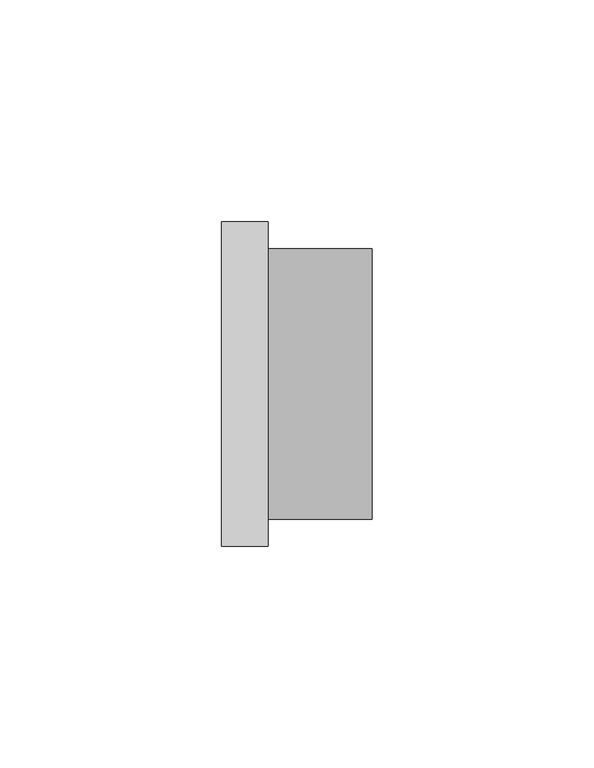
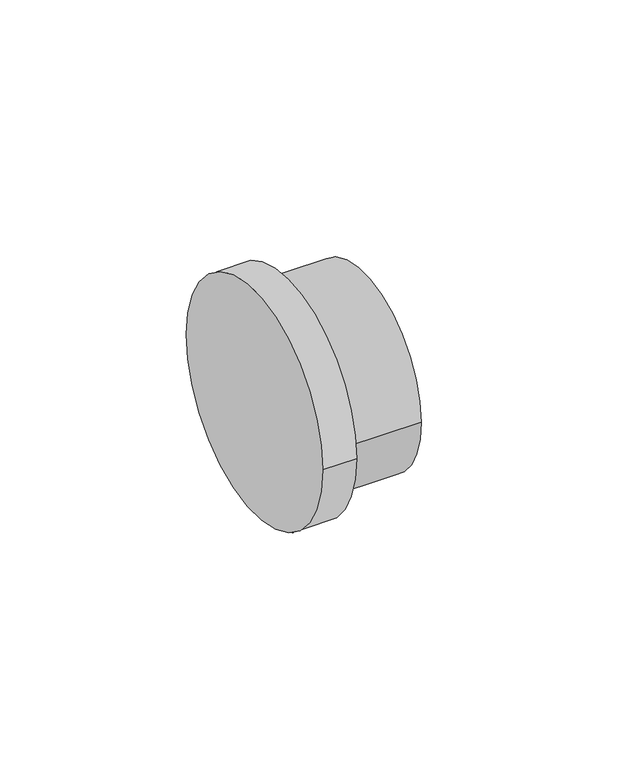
"""IFC4 building model written with IfcOpenShell, lengths in millimetres: pipe fitting geometry, NIRON RED termofusion casquillo : Estándar."""

from ifc_helpers import new_model, si_unit, point, frame, origin, origin_2d, place, context, project, spatial, circle_curve, trimmed, segment, composite_curve, outline, extrude, source, transform, mapped, element, save


def pipe_fitting_33881afb(model_context):
    return source(origin(), model_context, "Body", "SweptSolid", [
        extrude(outline(composite_curve([segment(trimmed(circle_curve(origin_2d(), 30.5), [point((30.5, 0.0))], [point((-30.5, 0.0))], False, "CARTESIAN"), True, "CONTINUOUS"), segment(trimmed(circle_curve(origin_2d(), 30.5), [point((-30.5, 0.0))], [point((30.5, 0.0))], False, "CARTESIAN"), True, "CONTINUOUS")], self_intersect=False)), frame((10.5, 0.0, 0.0), z_axis=(1.0, 0.0, 0.0), x_axis=(0.0, 1.0, 0.0)), (0.0, 0.0, 1.0), 23.5),
        extrude(outline(composite_curve([segment(trimmed(circle_curve(origin_2d(), 36.6), [point((-36.6, 0.0))], [point((36.6, 0.0))], False, "CARTESIAN"), True, "CONTINUOUS"), segment(trimmed(circle_curve(origin_2d(), 36.6), [point((36.6, 0.0))], [point((-36.6, 0.0))], False, "CARTESIAN"), True, "CONTINUOUS")], self_intersect=False)), frame((0.0, 0.0, 0.0), z_axis=(1.0, 0.0, 0.0), x_axis=(0.0, 1.0, 0.0)), (0.0, 0.0, 1.0), 10.5),
    ])


if __name__ == "__main__":
    model = new_model("IFC4")
    model_context = context("Model", 3, world=origin())
    ifc_project = project(units=[si_unit("LENGTHUNIT", "METRE", prefix="MILLI")], contexts=[model_context])
    site = spatial("IfcSite", under=ifc_project)
    building = spatial("IfcBuilding", under=site)
    placement = place(None, origin())
    pipe_fitting_shape = pipe_fitting_33881afb(model_context)
    element("IfcPipeFitting", 1, ObjectType="NIRON RED termofusion casquillo : Estándar", at=placement, inside=building, context=model_context, shape_type="MappedRepresentation", body=[
        mapped(pipe_fitting_shape, transform((0.0, 0.0, 0.0), x_axis=(1.0, 0.0, 0.0), y_axis=(0.0, 1.0, 0.0), z_axis=(0.0, 0.0, 1.0))),
    ])
    save(model, "model.ifc")
